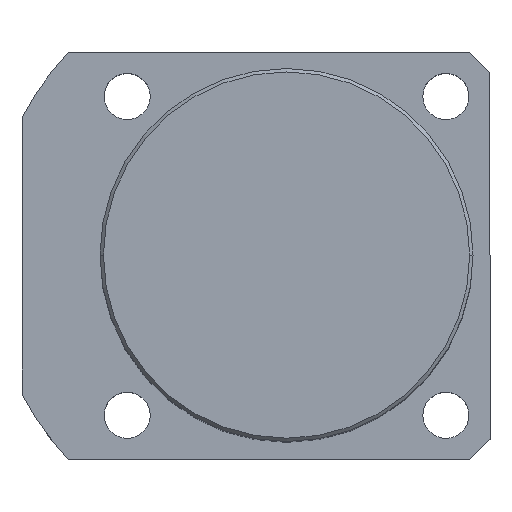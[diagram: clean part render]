
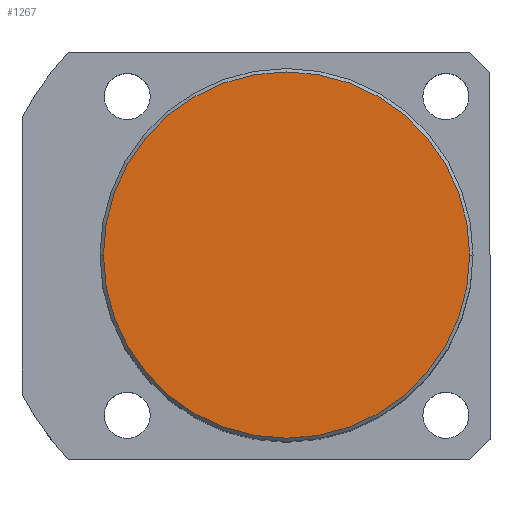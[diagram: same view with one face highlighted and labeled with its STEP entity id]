
A CAD part, top view. The second image highlights one B-rep face of the part: STEP entity #1267.
In plain terms, the highlighted planar face has unit normal (0, 0, 1).
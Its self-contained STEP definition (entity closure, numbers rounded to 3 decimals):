
#213 = AXIS2_PLACEMENT_3D ( 'NONE', #4665, #2299, #5065 ) ;
#796 = CARTESIAN_POINT ( 'NONE',  ( 0., 0., 80. ) ) ;
#886 = CIRCLE ( 'NONE', #213, 27. ) ;
#918 = FACE_OUTER_BOUND ( 'NONE', #4663, .T. ) ;
#1066 = ORIENTED_EDGE ( 'NONE', *, *, #4137, .T. ) ;
#1191 = DIRECTION ( 'NONE',  ( 1., 0., 0. ) ) ;
#1267 = ADVANCED_FACE ( 'NONE', ( #918 ), #3584, .T. ) ;
#1483 = AXIS2_PLACEMENT_3D ( 'NONE', #796, #3571, #1191 ) ;
#1638 = VERTEX_POINT ( 'NONE', #4307 ) ;
#2299 = DIRECTION ( 'NONE',  ( 0., 0., 1. ) ) ;
#2615 = EDGE_CURVE ( 'NONE', #1638, #3440, #886, .T. ) ;
#3191 = DIRECTION ( 'NONE',  ( 0., 0., 1. ) ) ;
#3440 = VERTEX_POINT ( 'NONE', #4232 ) ;
#3571 = DIRECTION ( 'NONE',  ( 0., 0., 1. ) ) ;
#3584 = PLANE ( 'NONE',  #4613 ) ;
#3971 = CARTESIAN_POINT ( 'NONE',  ( 0., 0., 80. ) ) ;
#4137 = EDGE_CURVE ( 'NONE', #3440, #1638, #4404, .T. ) ;
#4232 = CARTESIAN_POINT ( 'NONE',  ( 27., 0., 80. ) ) ;
#4307 = CARTESIAN_POINT ( 'NONE',  ( -27., 0., 80. ) ) ;
#4379 = ORIENTED_EDGE ( 'NONE', *, *, #2615, .T. ) ;
#4382 = DIRECTION ( 'NONE',  ( 1., 0., 0. ) ) ;
#4404 = CIRCLE ( 'NONE', #1483, 27. ) ;
#4613 = AXIS2_PLACEMENT_3D ( 'NONE', #3971, #3191, #4382 ) ;
#4663 = EDGE_LOOP ( 'NONE', ( #4379, #1066 ) ) ;
#4665 = CARTESIAN_POINT ( 'NONE',  ( 0., 0., 80. ) ) ;
#5065 = DIRECTION ( 'NONE',  ( 1., 0., 0. ) ) ;
